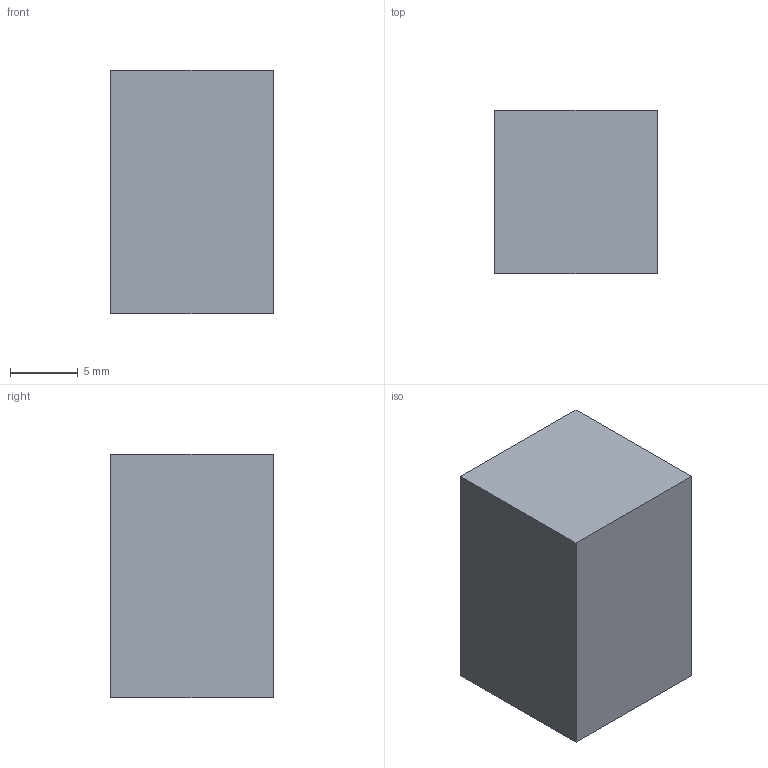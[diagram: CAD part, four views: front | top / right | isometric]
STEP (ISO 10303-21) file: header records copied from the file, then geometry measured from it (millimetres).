
FILE_DESCRIPTION(('Open CASCADE Model'),'2;1');
FILE_NAME('Open CASCADE Shape Model','2026-10-04T02:31:48',('Author'),( 'Open CASCADE'),'Open CASCADE STEP processor 8.0','Open CASCADE 8.0' ,'Unknown');
FILE_SCHEMA(('AUTOMOTIVE_DESIGN { 1 0 10303 214 1 1 1 1 }'));
Length unit declared in the file: millimetre
Products named in the file (1): Open CASCADE STEP translator 8.0 421
Bounding box: 12 x 12 x 18 mm (x, y, z)
Volume: 2592 mm3; surface area: 1152 mm2
Topology: 1 solids, 1 shells, 6 faces, 12 edges, 8 vertices
Faces by surface type: plane 6
Entity records: 322 total; most frequent: CARTESIAN_POINT 51, DIRECTION 50, LINE 36, VECTOR 36, ORIENTED_EDGE 24, PCURVE 24, DEFINITIONAL_REPRESENTATION 24, EDGE_CURVE 12
